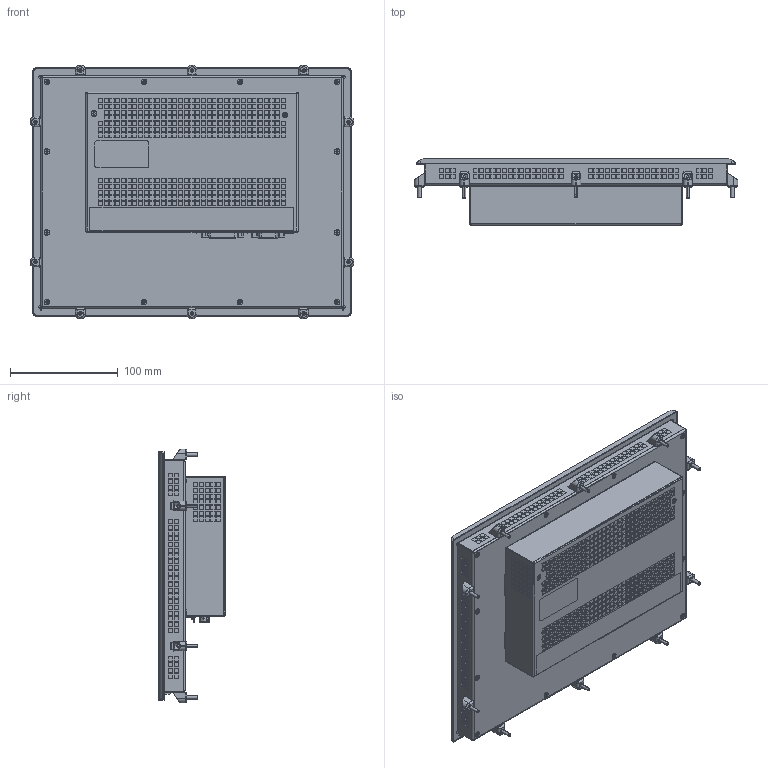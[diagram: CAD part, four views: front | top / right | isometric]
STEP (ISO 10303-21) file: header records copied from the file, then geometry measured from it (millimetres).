
FILE_DESCRIPTION (( 'STEP AP214' ), '1' );
FILE_NAME ('C6S14_104_RES_UPS_DB15.STEP', '2019-07-29T11:50:14', ( '' ), ( '' ), 'SwSTEP 2.0', 'SolidWorks 2018', '' );
FILE_SCHEMA (( 'AUTOMOTIVE_DESIGN' ));
Length unit declared in the file: millimetre
Products named in the file (5): C6S14_104_RES_UPS_DB15; DB15_Male_pin; C6S14_104_RES_UPS_1; C6S14_104_RES_ASM; C6S14_104_RES
Assembly tree (4 placements, depth 3):
  C6S14_104_RES_UPS_DB15
    C6S14_104_RES_ASM
    C6S14_104_RES
      C6S14_104_RES_UPS_1
      DB15_Male_pin
Bounding box: 300 x 61.79 x 235 mm (x, y, z)
Surface area: 425918.5 mm2
Topology: 1 solids, 5354 shells, 5648 faces, 30640 edges, 30331 vertices
Faces by surface type: plane 4323, cylinder 840, cone 258, bspline 165, torus 42, sphere 20
Entity records: 352586 total; most frequent: CARTESIAN_POINT 130986, DIRECTION 37019, ORIENTED_EDGE 31218, EDGE_CURVE 30584, VERTEX_POINT 30314, LINE 22003, VECTOR 22003, AXIS2_PLACEMENT_3D 7508
